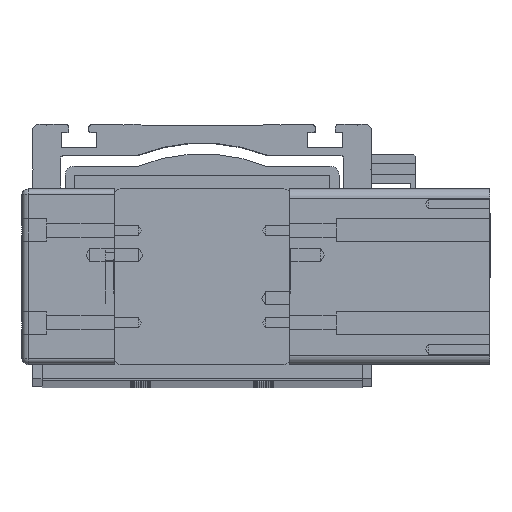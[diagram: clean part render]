
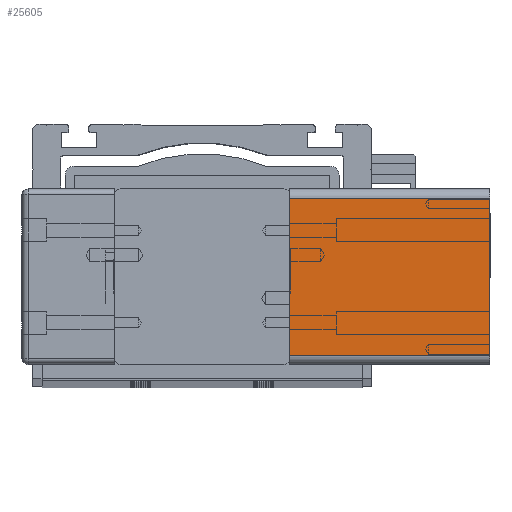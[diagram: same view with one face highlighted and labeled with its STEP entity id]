
A CAD part, top view. The second image highlights one B-rep face of the part: STEP entity #25605.
In plain terms, the highlighted planar face has unit normal (0, 0, 1) as drawn and (-1, 0, 0) by its records, which use the part's own axes.
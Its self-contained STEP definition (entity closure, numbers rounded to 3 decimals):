
#25339=CARTESIAN_POINT('',(0.0,54.0,0.0));
#25340=VERTEX_POINT('',#25339);
#25348=CARTESIAN_POINT('',(0.0,3.,0.0));
#25349=VERTEX_POINT('',#25348);
#25350=CARTESIAN_POINT('',(0.0,54.0,0.0));
#25351=DIRECTION('',(0.0,-1.0,0.0));
#25352=VECTOR('',#25351,51.0);
#25353=LINE('',#25350,#25352);
#25354=EDGE_CURVE('',#25340,#25349,#25353,.T.);
#25488=CARTESIAN_POINT('',(0.0,3.,-65.0));
#25489=VERTEX_POINT('',#25488);
#25506=CARTESIAN_POINT('',(0.0,3.,0.0));
#25507=DIRECTION('',(0.0,0.0,-1.0));
#25508=VECTOR('',#25507,65.0);
#25509=LINE('',#25506,#25508);
#25510=EDGE_CURVE('',#25349,#25489,#25509,.T.);
#25564=CARTESIAN_POINT('',(0.0,54.0,-65.0));
#25565=VERTEX_POINT('',#25564);
#25573=CARTESIAN_POINT('',(0.0,54.0,-65.0));
#25574=DIRECTION('',(0.0,0.0,1.0));
#25575=VECTOR('',#25574,65.0);
#25576=LINE('',#25573,#25575);
#25577=EDGE_CURVE('',#25565,#25340,#25576,.T.);
#25589=CARTESIAN_POINT('',(0.0,57.0,0.0));
#25590=DIRECTION('',(-1.0,0.0,0.0));
#25591=DIRECTION('',(0.0,0.0,1.0));
#25592=AXIS2_PLACEMENT_3D('',#25589,#25590,#25591);
#25593=PLANE('',#25592);
#25594=ORIENTED_EDGE('',*,*,#25510,.F.);
#25595=ORIENTED_EDGE('',*,*,#25354,.F.);
#25596=ORIENTED_EDGE('',*,*,#25577,.F.);
#25597=CARTESIAN_POINT('',(0.0,54.0,-65.0));
#25598=DIRECTION('',(0.0,-1.0,0.0));
#25599=VECTOR('',#25598,51.0);
#25600=LINE('',#25597,#25599);
#25601=EDGE_CURVE('',#25565,#25489,#25600,.T.);
#25602=ORIENTED_EDGE('',*,*,#25601,.T.);
#25603=EDGE_LOOP('',(#25594,#25595,#25596,#25602));
#25604=FACE_OUTER_BOUND('',#25603,.T.);
#25605=ADVANCED_FACE('',(#25604),#25593,.T.);
